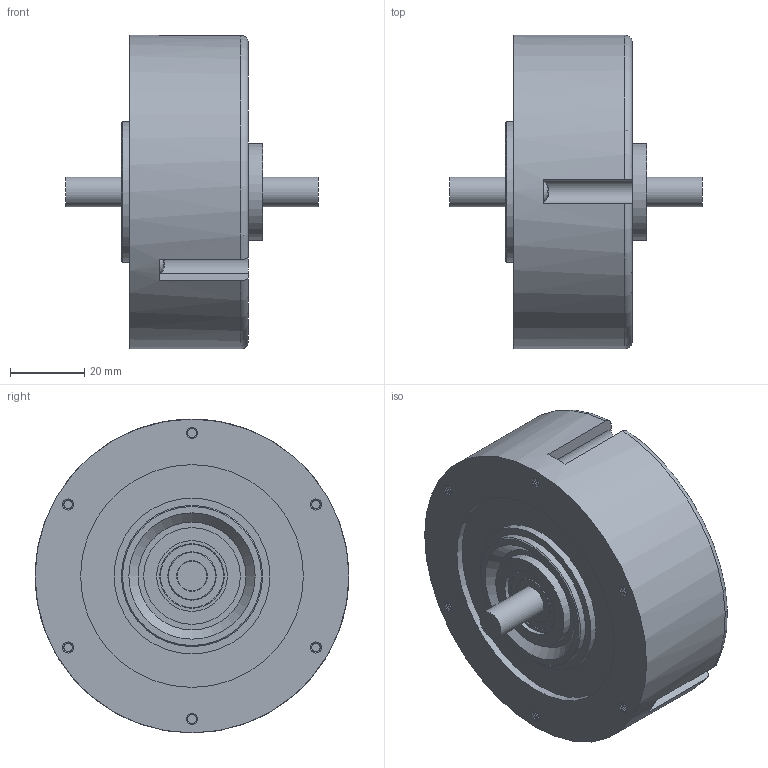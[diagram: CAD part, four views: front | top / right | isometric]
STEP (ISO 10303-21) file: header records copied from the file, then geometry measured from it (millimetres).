
FILE_DESCRIPTION((''),'1');
FILE_NAME('//Ha8000fs/isc/生産本部/ユニット部/図庫/国内ﾕﾆｯﾄ/ｴﾝﾙｰﾄ(ｲｰﾑｽﾞﾗﾎﾞ・ｱﾄﾗｯｸﾗﾎﾞ)/ﾄﾗｸｼｮﾝﾄﾞﾗｲﾌﾞ/ホームページ', '2021-04-19T04:22:09',(''), (''), 'KCM Version 1.1.1442.0', 'Kubotek KeyCreator', '');
FILE_SCHEMA(('AUTOMOTIVE_DESIGN'));
Length unit declared in the file: millimetre
Bounding box: 68 x 84.5 x 84.5 mm (x, y, z)
Surface area: 23443.8 mm2 (no closed solid volume)
Topology: 0 solids, 349 shells, 349 faces, 1342 edges, 1114 vertices
Faces by surface type: cone 203, plane 76, cylinder 64, sphere 3, torus 3
Full cylindrical faces by diameter (mm): 3 x9, 3.5 x3, 5.7 x3, 8 x2, 19 x2, 26 x2, 38 x1, 42 x1, 60 x1, 84.5 x1
Entity records: 15817 total; most frequent: CARTESIAN_POINT 4113, DIRECTION 2638, ORIENTED_EDGE 1570, EDGE_CURVE 1342, VERTEX_POINT 1114, AXIS2_PLACEMENT_3D 1073, CIRCLE 723, VECTOR 492
